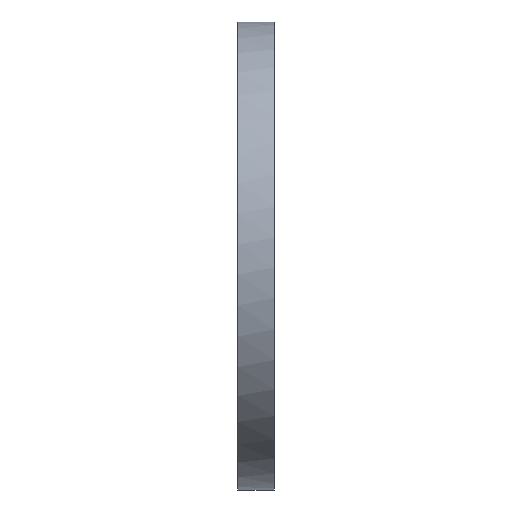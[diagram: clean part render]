
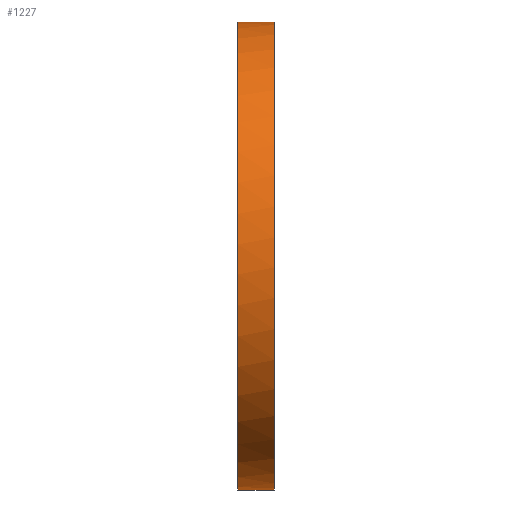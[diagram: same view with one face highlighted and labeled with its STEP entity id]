
A CAD part, left-side view. The second image highlights one B-rep face of the part: STEP entity #1227.
In plain terms, the highlighted free-form (B-spline) face has degree [5, 1] with [21, 2] control points.
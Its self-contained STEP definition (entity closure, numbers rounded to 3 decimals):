
#262=ORIENTED_EDGE('trim curve',*,*,#717,.F.);
#263=ORIENTED_EDGE('trim curve',*,*,#596,.F.);
#264=ORIENTED_EDGE('trim curve',*,*,#718,.F.);
#265=ORIENTED_EDGE('trim curve',*,*,#641,.F.);
#460=VERTEX_POINT('Trimming Point',#1481);
#461=VERTEX_POINT('Trimming Point',#1492);
#502=VERTEX_POINT('Trimming Point',#3022);
#503=VERTEX_POINT('Trimming Point',#3032);
#596=EDGE_CURVE('Edge Curve',#460,#461,#810,.T.);
#641=EDGE_CURVE('Edge Curve',#502,#503,#855,.T.);
#717=EDGE_CURVE('Edge Curve',#461,#502,#931,.T.);
#718=EDGE_CURVE('Edge Curve',#503,#460,#932,.T.);
#810=(
BOUNDED_CURVE()
B_SPLINE_CURVE(5,(#1482,#1483,#1484,#1485,#1486,#1487,#1488,#1489,#1490,
#1491,#1492),.UNSPECIFIED.,.U.,.U.)
B_SPLINE_CURVE_WITH_KNOTS((6,5,6),(0.,1.571,3.142),
 .UNSPECIFIED.)
CURVE()
GEOMETRIC_REPRESENTATION_ITEM()
RATIONAL_B_SPLINE_CURVE((1.,0.883,0.824,0.824,
0.883,1.,0.883,0.824,0.824,
0.883,1.))
REPRESENTATION_ITEM('node')
);
#855=(
BOUNDED_CURVE()
B_SPLINE_CURVE(5,(#3022,#3023,#3024,#3025,#3026,#3027,#3028,#3029,#3030,
#3031,#3032),.UNSPECIFIED.,.U.,.U.)
B_SPLINE_CURVE_WITH_KNOTS((6,5,6),(0.,1.571,3.142),
 .UNSPECIFIED.)
CURVE()
GEOMETRIC_REPRESENTATION_ITEM()
RATIONAL_B_SPLINE_CURVE((1.,0.883,0.824,0.824,
0.883,1.,0.883,0.824,0.824,
0.883,1.))
REPRESENTATION_ITEM('node')
);
#931=(
BOUNDED_CURVE()
B_SPLINE_CURVE(1,(#3986,#3987),.UNSPECIFIED.,.U.,.U.)
B_SPLINE_CURVE_WITH_KNOTS((2,2),(0.,1.),.UNSPECIFIED.)
CURVE()
GEOMETRIC_REPRESENTATION_ITEM()
RATIONAL_B_SPLINE_CURVE((1.,1.))
REPRESENTATION_ITEM('node')
);
#932=(
BOUNDED_CURVE()
B_SPLINE_CURVE(1,(#3988,#3989),.UNSPECIFIED.,.U.,.U.)
B_SPLINE_CURVE_WITH_KNOTS((2,2),(0.,0.17),.UNSPECIFIED.)
CURVE()
GEOMETRIC_REPRESENTATION_ITEM()
RATIONAL_B_SPLINE_CURVE((1.,1.))
REPRESENTATION_ITEM('node')
);
#1077=EDGE_LOOP('trim boundary',(#262,#263,#264,#265));
#1127=FACE_OUTER_BOUND('Boundary Edges',#1077,.T.);
#1177=(
BOUNDED_SURFACE()
B_SPLINE_SURFACE(5,1,((#3944,#3945),(#3946,#3947),(#3948,#3949),(#3950,#3951),
(#3952,#3953),(#3954,#3955),(#3956,#3957),(#3958,#3959),(#3960,#3961),(#3962,
#3963),(#3964,#3965),(#3966,#3967),(#3968,#3969),(#3970,#3971),(#3972,#3973),
(#3974,#3975),(#3976,#3977),(#3978,#3979),(#3980,#3981),(#3982,#3983),(#3984,
#3985)),.UNSPECIFIED.,.U.,.U.,.U.)
B_SPLINE_SURFACE_WITH_KNOTS((6,5,5,5,6),(2,2),(0.,1.571,3.142,
4.712,6.283),(0.,0.17),.UNSPECIFIED.)
GEOMETRIC_REPRESENTATION_ITEM()
RATIONAL_B_SPLINE_SURFACE(((1.,1.),(0.883,0.883),
(0.824,0.824),(0.824,0.824),
(0.883,0.883),(1.,1.),(0.883,0.883),
(0.824,0.824),(0.824,0.824),
(0.883,0.883),(1.,1.),(0.883,0.883),
(0.824,0.824),(0.824,0.824),
(0.883,0.883),(1.,1.),(0.883,0.883),
(0.824,0.824),(0.824,0.824),
(0.883,0.883),(1.,1.)))
REPRESENTATION_ITEM('trim region')
SURFACE()
);
#1227=ADVANCED_FACE('trim region',(#1127),#1177,.T.);
#1481=CARTESIAN_POINT('CVs',(0.,2.823,10.93));
#1482=CARTESIAN_POINT('CVs',(0.,2.823,10.93));
#1483=CARTESIAN_POINT('CVs',(-3.502,2.823,10.93));
#1484=CARTESIAN_POINT('CVs',(-6.952,2.823,9.604));
#1485=CARTESIAN_POINT('CVs',(-9.604,2.823,6.952));
#1486=CARTESIAN_POINT('CVs',(-10.93,2.823,3.502));
#1487=CARTESIAN_POINT('CVs',(-10.93,2.823,0.));
#1488=CARTESIAN_POINT('CVs',(-10.93,2.823,-3.502));
#1489=CARTESIAN_POINT('CVs',(-9.604,2.823,-6.952));
#1490=CARTESIAN_POINT('CVs',(-6.952,2.823,-9.604));
#1491=CARTESIAN_POINT('CVs',(-3.502,2.823,-10.93));
#1492=CARTESIAN_POINT('CVs',(0.,2.823,-10.93));
#3022=CARTESIAN_POINT('CVs',(0.,4.523,-10.93));
#3023=CARTESIAN_POINT('CVs',(-3.502,4.523,-10.93));
#3024=CARTESIAN_POINT('CVs',(-6.952,4.523,-9.604));
#3025=CARTESIAN_POINT('CVs',(-9.604,4.523,-6.952));
#3026=CARTESIAN_POINT('CVs',(-10.93,4.523,-3.502));
#3027=CARTESIAN_POINT('CVs',(-10.93,4.523,0.));
#3028=CARTESIAN_POINT('CVs',(-10.93,4.523,3.502));
#3029=CARTESIAN_POINT('CVs',(-9.604,4.523,6.952));
#3030=CARTESIAN_POINT('CVs',(-6.952,4.523,9.604));
#3031=CARTESIAN_POINT('CVs',(-3.502,4.523,10.93));
#3032=CARTESIAN_POINT('CVs',(0.,4.523,10.93));
#3944=CARTESIAN_POINT('CVs',(0.,2.823,10.93));
#3945=CARTESIAN_POINT('CVs',(0.,4.523,10.93));
#3946=CARTESIAN_POINT('CVs',(3.502,2.823,10.93));
#3947=CARTESIAN_POINT('CVs',(3.502,4.523,10.93));
#3948=CARTESIAN_POINT('CVs',(6.952,2.823,9.604));
#3949=CARTESIAN_POINT('CVs',(6.952,4.523,9.604));
#3950=CARTESIAN_POINT('CVs',(9.604,2.823,6.952));
#3951=CARTESIAN_POINT('CVs',(9.604,4.523,6.952));
#3952=CARTESIAN_POINT('CVs',(10.93,2.823,3.502));
#3953=CARTESIAN_POINT('CVs',(10.93,4.523,3.502));
#3954=CARTESIAN_POINT('CVs',(10.93,2.823,0.));
#3955=CARTESIAN_POINT('CVs',(10.93,4.523,0.));
#3956=CARTESIAN_POINT('CVs',(10.93,2.823,-3.502));
#3957=CARTESIAN_POINT('CVs',(10.93,4.523,-3.502));
#3958=CARTESIAN_POINT('CVs',(9.604,2.823,-6.952));
#3959=CARTESIAN_POINT('CVs',(9.604,4.523,-6.952));
#3960=CARTESIAN_POINT('CVs',(6.952,2.823,-9.604));
#3961=CARTESIAN_POINT('CVs',(6.952,4.523,-9.604));
#3962=CARTESIAN_POINT('CVs',(3.502,2.823,-10.93));
#3963=CARTESIAN_POINT('CVs',(3.502,4.523,-10.93));
#3964=CARTESIAN_POINT('CVs',(0.,2.823,-10.93));
#3965=CARTESIAN_POINT('CVs',(0.,4.523,-10.93));
#3966=CARTESIAN_POINT('CVs',(-3.502,2.823,-10.93));
#3967=CARTESIAN_POINT('CVs',(-3.502,4.523,-10.93));
#3968=CARTESIAN_POINT('CVs',(-6.952,2.823,-9.604));
#3969=CARTESIAN_POINT('CVs',(-6.952,4.523,-9.604));
#3970=CARTESIAN_POINT('CVs',(-9.604,2.823,-6.952));
#3971=CARTESIAN_POINT('CVs',(-9.604,4.523,-6.952));
#3972=CARTESIAN_POINT('CVs',(-10.93,2.823,-3.502));
#3973=CARTESIAN_POINT('CVs',(-10.93,4.523,-3.502));
#3974=CARTESIAN_POINT('CVs',(-10.93,2.823,0.));
#3975=CARTESIAN_POINT('CVs',(-10.93,4.523,0.));
#3976=CARTESIAN_POINT('CVs',(-10.93,2.823,3.502));
#3977=CARTESIAN_POINT('CVs',(-10.93,4.523,3.502));
#3978=CARTESIAN_POINT('CVs',(-9.604,2.823,6.952));
#3979=CARTESIAN_POINT('CVs',(-9.604,4.523,6.952));
#3980=CARTESIAN_POINT('CVs',(-6.952,2.823,9.604));
#3981=CARTESIAN_POINT('CVs',(-6.952,4.523,9.604));
#3982=CARTESIAN_POINT('CVs',(-3.502,2.823,10.93));
#3983=CARTESIAN_POINT('CVs',(-3.502,4.523,10.93));
#3984=CARTESIAN_POINT('CVs',(0.,2.823,10.93));
#3985=CARTESIAN_POINT('CVs',(0.,4.523,10.93));
#3986=CARTESIAN_POINT('CVs',(0.,2.823,-10.93));
#3987=CARTESIAN_POINT('CVs',(0.,4.523,-10.93));
#3988=CARTESIAN_POINT('CVs',(0.,4.523,10.93));
#3989=CARTESIAN_POINT('CVs',(0.,2.823,10.93));
